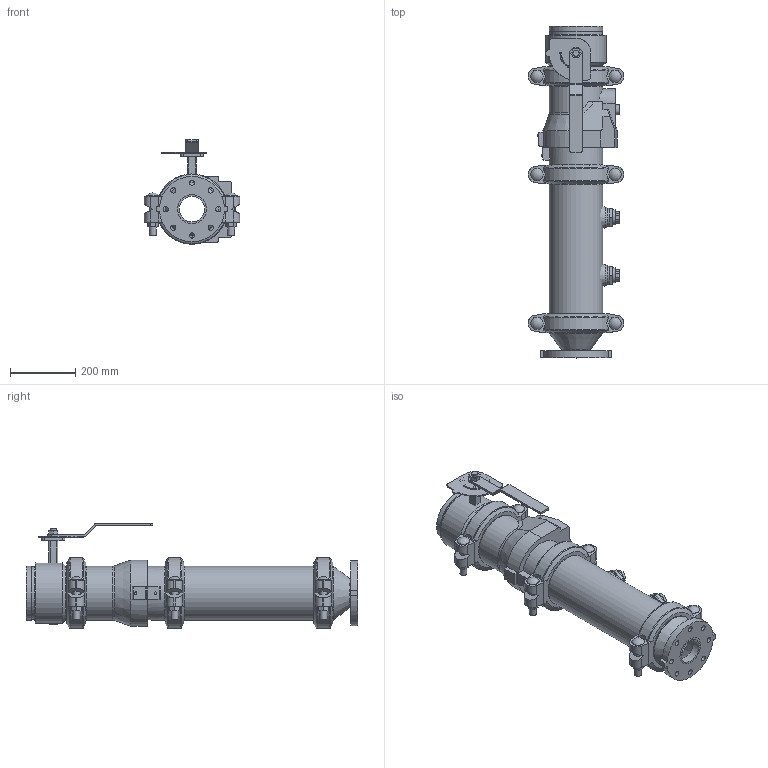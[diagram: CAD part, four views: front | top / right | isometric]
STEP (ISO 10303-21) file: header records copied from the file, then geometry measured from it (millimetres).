
FILE_DESCRIPTION(/* description */ ('VIC DVI PUMP DROP VERT S/390 (OGSxFLG)','CAx-IF Rec.Pracs.---Representation and Presentation of Product Manufacturing Information (PMI)---4.0---2014-10-13'),/* implementation_level */ '2;1');
FILE_NAME(/* name */ 'C:\Users\Vjadhav\AppData\Roaming\Autodesk\ApplicationPlugins\Back Up\Victaulic_IPS_Vertical DVI_PN10_Series 390 (OGSxFLG)\Victaulic_IPS_Vertical DVI_PN10_Series 390 (OGSxFLG)_06.0 (165.1)x03.0 (150x80).stp',/* time_stamp */ '2020-11-09T17:50:51+05:00',/* author */ ('Vjadhav'),/* organization */ ('Victaulic'),/* preprocessor_version */ 'ST-DEVELOPER v17.2',/* originating_system */ 'Autodesk Inventor 2019',/* authorisation */ '');
FILE_SCHEMA (('AP242_MANAGED_MODEL_BASED_3D_ENGINEERING_MIM_LF { 1 0 10303 442 1 1 4 }'));
Length unit declared in the file: inch
Products named in the file (8): 390-06.0 (165.1)x03.0; 741-03.0; 050-06.0 (165.1)x03.0; Pipe-06.0 (165.1); 177N-06.0 (165.1); 761-06.0 (165.1); 716-06.0 (165.1); 923-04.0x0.75
Assembly tree (10 placements, depth 2):
  390-06.0 (165.1)x03.0
    741-03.0
    050-06.0 (165.1)x03.0
    177N-06.0 (165.1)  x3
    Pipe-06.0 (165.1)
    761-06.0 (165.1)
    716-06.0 (165.1)
    923-04.0x0.75  x2
Bounding box: 292.61 x 1019.05 x 321.06 mm (x, y, z)
Volume: 9686024.9 mm3; surface area: 1744889.7 mm2
Topology: 10 solids, 11 shells, 610 faces, 1610 edges, 1075 vertices
Faces by surface type: plane 357, cylinder 208, cone 20, torus 17, sphere 6, bspline 2
Full cylindrical faces by diameter (mm): 4.826 x10, 7.62 x2, 8.636 x4, 16.002 x8, 19.05 x2, 21.209 x6, 22.86 x1, 26.67 x2, 30.48 x1, 37.694 x6, 45.974 x4, 55.118 x1, 55.626 x2, 77.927 x1, 84.938 x1, 88.9 x3, 150.876 x1, 152.4 x3, 153.975 x1, 154.051 x2, 160.782 x7, 165.1 x19, 185.42 x1
Entity records: 12528 total; most frequent: CARTESIAN_POINT 2395, DIRECTION 2081, ORIENTED_EDGE 1908, EDGE_CURVE 954, AXIS2_PLACEMENT_3D 783, VERTEX_POINT 643, LINE 515, VECTOR 515
